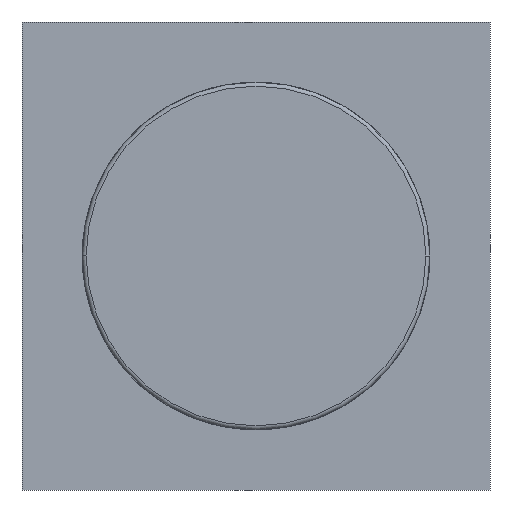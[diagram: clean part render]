
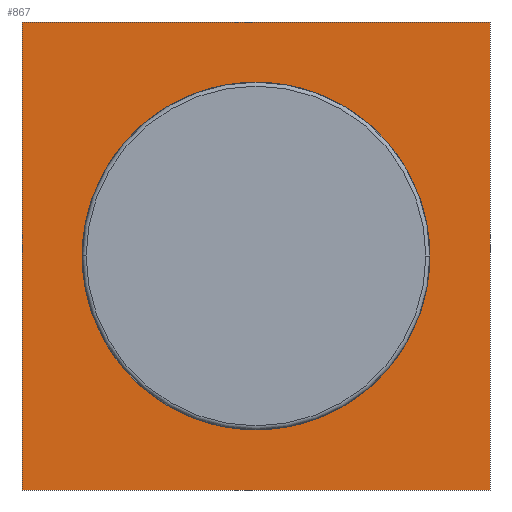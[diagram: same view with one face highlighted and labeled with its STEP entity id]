
A CAD part, front view. The second image highlights one B-rep face of the part: STEP entity #867.
In plain terms, the highlighted planar face has unit normal (0, -1, 0).
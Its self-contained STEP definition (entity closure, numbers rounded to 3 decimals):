
#612=DIRECTION('',(0.,0.,1.));
#613=VECTOR('',#612,35.);
#614=CARTESIAN_POINT('',(-17.5,30.4,-17.5));
#615=LINE('',#614,#613);
#624=DIRECTION('',(1.,0.,0.));
#625=VECTOR('',#624,35.);
#626=CARTESIAN_POINT('',(-17.5,30.4,17.5));
#627=LINE('',#626,#625);
#640=DIRECTION('',(0.,0.,-1.));
#641=VECTOR('',#640,35.);
#642=CARTESIAN_POINT('',(17.5,30.4,17.5));
#643=LINE('',#642,#641);
#648=DIRECTION('',(-1.,0.,0.));
#649=VECTOR('',#648,35.);
#650=CARTESIAN_POINT('',(17.5,30.4,-17.5));
#651=LINE('',#650,#649);
#708=CARTESIAN_POINT('',(-17.5,30.4,-17.5));
#709=CARTESIAN_POINT('',(-17.5,30.4,17.5));
#710=VERTEX_POINT('',#708);
#711=VERTEX_POINT('',#709);
#712=CARTESIAN_POINT('',(17.5,30.4,17.5));
#713=VERTEX_POINT('',#712);
#714=CARTESIAN_POINT('',(17.5,30.4,-17.5));
#715=VERTEX_POINT('',#714);
#856=CARTESIAN_POINT('',(0.,30.4,0.));
#857=DIRECTION('',(0.,-1.,0.));
#858=DIRECTION('',(-1.,0.,0.));
#859=AXIS2_PLACEMENT_3D('',#856,#857,#858);
#860=PLANE('',#859);
#861=ORIENTED_EDGE('',*,*,#769,.T.);
#862=ORIENTED_EDGE('',*,*,#785,.T.);
#863=ORIENTED_EDGE('',*,*,#800,.T.);
#864=ORIENTED_EDGE('',*,*,#815,.T.);
#865=EDGE_LOOP('',(#861,#862,#863,#864));
#866=FACE_OUTER_BOUND('',#865,.F.);
#867=ADVANCED_FACE('',(#866),#860,.T.);
#769=EDGE_CURVE('',#710,#711,#615,.T.);
#785=EDGE_CURVE('',#711,#713,#627,.T.);
#800=EDGE_CURVE('',#713,#715,#643,.T.);
#815=EDGE_CURVE('',#715,#710,#651,.T.);
